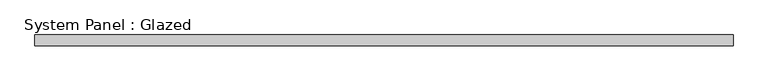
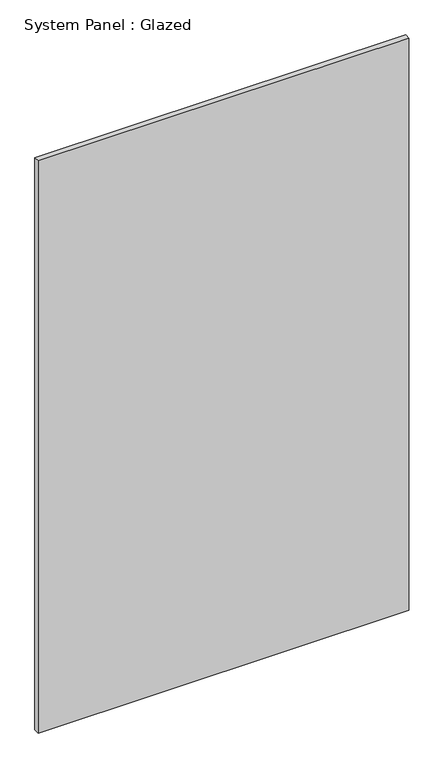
"""IFC4 building model written with IfcOpenShell, lengths in millimetres: plate geometry, System Panel : Glazed."""

from ifc_helpers import new_model, si_unit, origin, origin_with_axes, place, context, project, spatial, polyline, outline, extrude, source, transform, mapped, element, save


def system_panel_glazed_9c5fd395(model_context):
    return source(origin(), model_context, "Body", "SweptSolid", [
        extrude(outline(polyline([(824.7959145, 19.05), (-824.7959145, 19.05), (-824.7959145, 44.45), (824.7959145, 44.45), (824.7959145, 19.05)])), origin_with_axes(), (0.0, 0.0, 1.0), 2692.4),
    ])


if __name__ == "__main__":
    model = new_model("IFC4")
    model_context = context("Model", 3, world=origin())
    ifc_project = project(units=[si_unit("LENGTHUNIT", "METRE", prefix="MILLI")], contexts=[model_context])
    site = spatial("IfcSite", under=ifc_project)
    building = spatial("IfcBuilding", under=site)
    placement = place(None, origin())
    system_panel_glazed_shape = system_panel_glazed_9c5fd395(model_context)
    element("IfcPlate", 1, ObjectType="System Panel : Glazed", at=placement, inside=building, context=model_context, shape_type="MappedRepresentation", body=[
        mapped(system_panel_glazed_shape, transform((0.0, 0.0, 0.0), x_axis=(1.0, 0.0, 0.0), y_axis=(0.0, 1.0, 0.0), z_axis=(0.0, 0.0, 1.0))),
    ])
    save(model, "model.ifc")
